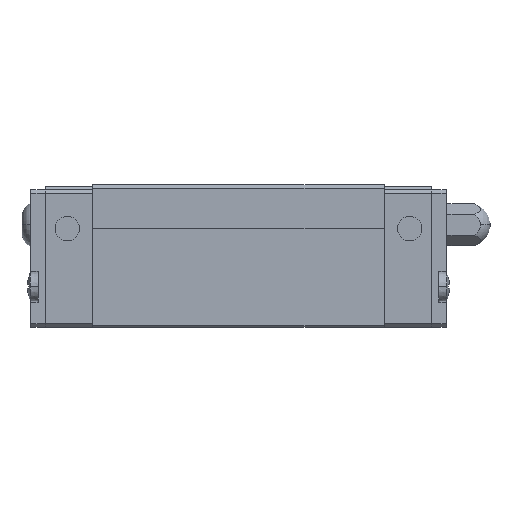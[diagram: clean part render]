
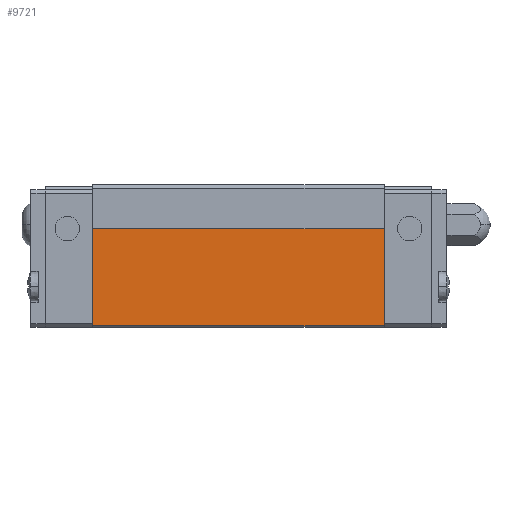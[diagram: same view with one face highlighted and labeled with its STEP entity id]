
A CAD part, left-side view. The second image highlights one B-rep face of the part: STEP entity #9721.
In plain terms, the highlighted planar face has unit normal (-1, 0, 0).
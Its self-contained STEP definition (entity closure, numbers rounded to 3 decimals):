
#4957=VERTEX_POINT('',#11743);
#5971=EDGE_CURVE('',#6883,#7737,#12867,.T.);
#6025=VERTEX_POINT('',#12929);
#6883=VERTEX_POINT('',#13861);
#7391=EDGE_CURVE('',#6025,#7737,#14415,.T.);
#7737=VERTEX_POINT('',#14792);
#9215=EDGE_CURVE('',#4957,#6025,#16398,.T.);
#9587=EDGE_CURVE('',#6883,#4957,#16801,.T.);
#9721=ADVANCED_FACE('',(#16951),#16952,.T.);
#11743=CARTESIAN_POINT('',(-16.7,8.5,4.7));
#12867=LINE('',#21557,#21558);
#12929=CARTESIAN_POINT('',(-16.7,48.3,4.7));
#13861=CARTESIAN_POINT('',(-16.7,8.5,18.0));
#14415=LINE('',#23816,#23817);
#14792=CARTESIAN_POINT('',(-16.7,48.3,18.0));
#16398=LINE('',#26735,#26736);
#16801=LINE('',#27341,#27342);
#16951=FACE_OUTER_BOUND('',#27553,.T.);
#16952=PLANE('',#27554);
#21557=CARTESIAN_POINT('',(-16.7,28.4,18.0));
#21558=VECTOR('',#31177,1.0);
#23816=CARTESIAN_POINT('',(-16.7,48.3,10.125));
#23817=VECTOR('',#32821,1.0);
#26735=CARTESIAN_POINT('',(-16.7,38.35,4.7));
#26736=VECTOR('',#34728,1.0);
#27341=CARTESIAN_POINT('',(-16.7,8.5,10.125));
#27342=VECTOR('',#35250,1.0);
#27553=EDGE_LOOP('',(#35454,#35455,#35456,#35457));
#27554=AXIS2_PLACEMENT_3D('',#35458,#35459,#35460);
#31177=DIRECTION('',(0.0,1.0,0.0));
#32821=DIRECTION('',(0.0,0.0,1.0));
#34728=DIRECTION('',(0.0,1.0,-0.0));
#35250=DIRECTION('',(-0.0,-0.0,-1.0));
#35454=ORIENTED_EDGE('',*,*,#7391,.F.);
#35455=ORIENTED_EDGE('',*,*,#9215,.F.);
#35456=ORIENTED_EDGE('',*,*,#9587,.F.);
#35457=ORIENTED_EDGE('',*,*,#5971,.T.);
#35458=CARTESIAN_POINT('',(-16.7,28.4,6.0));
#35459=DIRECTION('',(-1.0,0.0,0.0));
#35460=DIRECTION('',(0.0,0.0,1.0));
